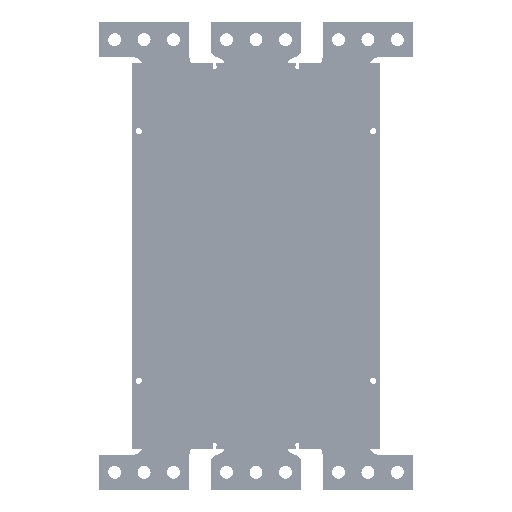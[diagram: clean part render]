
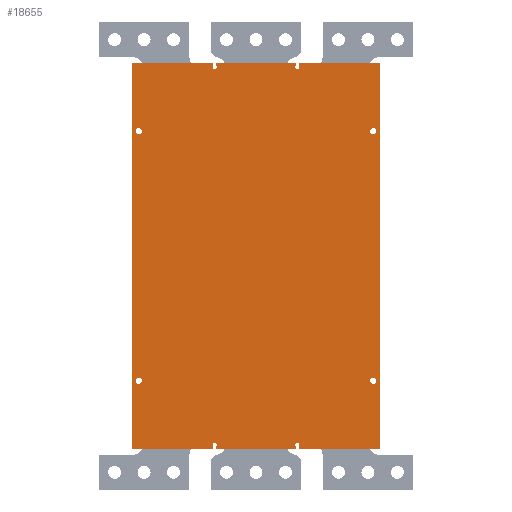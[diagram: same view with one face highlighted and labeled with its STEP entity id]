
A CAD part, front view. The second image highlights one B-rep face of the part: STEP entity #18655.
In plain terms, the highlighted planar face has unit normal (0, -1, 0).
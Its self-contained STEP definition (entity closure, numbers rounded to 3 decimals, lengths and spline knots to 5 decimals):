
#905=FACE_BOUND('',#3707,.T.);
#906=FACE_BOUND('',#3708,.T.);
#907=FACE_BOUND('',#3709,.T.);
#908=FACE_BOUND('',#3710,.T.);
#1565=PLANE('',#19923);
#2549=FACE_OUTER_BOUND('',#3706,.T.);
#3706=EDGE_LOOP('',(#16265,#16266,#16267,#16268,#16269,#16270,#16271,#16272,
#16273,#16274,#16275,#16276,#16277,#16278,#16279,#16280,#16281,#16282,#16283,
#16284));
#3707=EDGE_LOOP('',(#16285));
#3708=EDGE_LOOP('',(#16286));
#3709=EDGE_LOOP('',(#16287));
#3710=EDGE_LOOP('',(#16288));
#4151=CIRCLE('',#19539,0.00265);
#4154=CIRCLE('',#19544,0.00265);
#4157=CIRCLE('',#19549,0.00265);
#4159=CIRCLE('',#19554,0.00175);
#4161=CIRCLE('',#19559,0.00175);
#4263=CIRCLE('',#19909,0.00175);
#4265=CIRCLE('',#19921,0.00175);
#4266=CIRCLE('',#19924,0.00265);
#5065=LINE('',#38653,#6822);
#5068=LINE('',#38663,#6825);
#5071=LINE('',#38670,#6828);
#5077=LINE('',#38686,#6834);
#5230=LINE('',#51042,#6987);
#5244=LINE('',#51080,#7001);
#5251=LINE('',#51093,#7008);
#5555=LINE('',#91171,#7312);
#5557=LINE('',#91175,#7314);
#5560=LINE('',#91183,#7317);
#5562=LINE('',#91187,#7319);
#5588=LINE('',#91240,#7345);
#5589=LINE('',#91243,#7346);
#5590=LINE('',#91244,#7347);
#5591=LINE('',#91245,#7348);
#5592=LINE('',#91246,#7349);
#6822=VECTOR('',#22194,0.00168);
#6825=VECTOR('',#22205,0.00168);
#6828=VECTOR('',#22210,0.00168);
#6834=VECTOR('',#22224,0.00168);
#6987=VECTOR('',#22583,0.06885);
#7001=VECTOR('',#22615,0.00168);
#7008=VECTOR('',#22624,0.06885);
#7312=VECTOR('',#23392,0.06885);
#7314=VECTOR('',#23396,0.00168);
#7317=VECTOR('',#23405,0.00168);
#7319=VECTOR('',#23409,0.0677);
#7345=VECTOR('',#23457,0.00168);
#7346=VECTOR('',#23460,0.327);
#7347=VECTOR('',#23461,0.06885);
#7348=VECTOR('',#23462,0.0677);
#7349=VECTOR('',#23463,0.327);
#8542=VERTEX_POINT('',#38625);
#8545=VERTEX_POINT('',#38633);
#8548=VERTEX_POINT('',#38641);
#8552=VERTEX_POINT('',#38650);
#8553=VERTEX_POINT('',#38652);
#8555=VERTEX_POINT('',#38657);
#8556=VERTEX_POINT('',#38662);
#8558=VERTEX_POINT('',#38668);
#8559=VERTEX_POINT('',#38669);
#8562=VERTEX_POINT('',#38677);
#8565=VERTEX_POINT('',#38685);
#8751=VERTEX_POINT('',#51040);
#8765=VERTEX_POINT('',#51078);
#8766=VERTEX_POINT('',#51079);
#8771=VERTEX_POINT('',#51092);
#9208=VERTEX_POINT('',#91168);
#9209=VERTEX_POINT('',#91170);
#9210=VERTEX_POINT('',#91174);
#9211=VERTEX_POINT('',#91178);
#9212=VERTEX_POINT('',#91182);
#9213=VERTEX_POINT('',#91186);
#9229=VERTEX_POINT('',#91236);
#9230=VERTEX_POINT('',#91242);
#9231=VERTEX_POINT('',#91247);
#10684=EDGE_CURVE('',#8542,#8542,#4151,.T.);
#10687=EDGE_CURVE('',#8545,#8545,#4154,.T.);
#10690=EDGE_CURVE('',#8548,#8548,#4157,.T.);
#10694=EDGE_CURVE('',#8553,#8552,#5065,.T.);
#10697=EDGE_CURVE('',#8552,#8555,#4159,.T.);
#10699=EDGE_CURVE('',#8556,#8555,#5068,.T.);
#10702=EDGE_CURVE('',#8558,#8559,#5071,.T.);
#10706=EDGE_CURVE('',#8562,#8559,#4161,.T.);
#10710=EDGE_CURVE('',#8565,#8562,#5077,.T.);
#10984=EDGE_CURVE('',#8751,#8558,#5230,.T.);
#11000=EDGE_CURVE('',#8765,#8766,#5244,.T.);
#11007=EDGE_CURVE('',#8771,#8765,#5251,.T.);
#11650=EDGE_CURVE('',#9209,#9208,#5555,.T.);
#11652=EDGE_CURVE('',#9209,#9210,#5557,.T.);
#11654=EDGE_CURVE('',#9210,#9211,#4263,.T.);
#11656=EDGE_CURVE('',#9212,#9211,#5560,.T.);
#11658=EDGE_CURVE('',#9213,#9212,#5562,.T.);
#11684=EDGE_CURVE('',#9229,#8766,#4265,.T.);
#11686=EDGE_CURVE('',#9213,#9229,#5588,.T.);
#11687=EDGE_CURVE('',#9208,#9230,#5589,.T.);
#11688=EDGE_CURVE('',#8553,#9230,#5590,.T.);
#11689=EDGE_CURVE('',#8565,#8556,#5591,.T.);
#11690=EDGE_CURVE('',#8771,#8751,#5592,.T.);
#11691=EDGE_CURVE('',#9231,#9231,#4266,.T.);
#16265=ORIENTED_EDGE('',*,*,#11658,.T.);
#16266=ORIENTED_EDGE('',*,*,#11656,.T.);
#16267=ORIENTED_EDGE('',*,*,#11654,.F.);
#16268=ORIENTED_EDGE('',*,*,#11652,.F.);
#16269=ORIENTED_EDGE('',*,*,#11650,.T.);
#16270=ORIENTED_EDGE('',*,*,#11687,.T.);
#16271=ORIENTED_EDGE('',*,*,#11688,.F.);
#16272=ORIENTED_EDGE('',*,*,#10694,.T.);
#16273=ORIENTED_EDGE('',*,*,#10697,.T.);
#16274=ORIENTED_EDGE('',*,*,#10699,.F.);
#16275=ORIENTED_EDGE('',*,*,#11689,.F.);
#16276=ORIENTED_EDGE('',*,*,#10710,.T.);
#16277=ORIENTED_EDGE('',*,*,#10706,.T.);
#16278=ORIENTED_EDGE('',*,*,#10702,.F.);
#16279=ORIENTED_EDGE('',*,*,#10984,.F.);
#16280=ORIENTED_EDGE('',*,*,#11690,.F.);
#16281=ORIENTED_EDGE('',*,*,#11007,.T.);
#16282=ORIENTED_EDGE('',*,*,#11000,.T.);
#16283=ORIENTED_EDGE('',*,*,#11684,.F.);
#16284=ORIENTED_EDGE('',*,*,#11686,.F.);
#16285=ORIENTED_EDGE('',*,*,#11691,.T.);
#16286=ORIENTED_EDGE('',*,*,#10684,.T.);
#16287=ORIENTED_EDGE('',*,*,#10687,.T.);
#16288=ORIENTED_EDGE('',*,*,#10690,.T.);
#18655=ADVANCED_FACE('',(#2549,#905,#906,#907,#908),#1565,.T.);
#19539=AXIS2_PLACEMENT_3D('',#38626,#22164,#22165);
#19544=AXIS2_PLACEMENT_3D('',#38634,#22174,#22175);
#19549=AXIS2_PLACEMENT_3D('',#38642,#22184,#22185);
#19554=AXIS2_PLACEMENT_3D('',#38659,#22199,#22200);
#19559=AXIS2_PLACEMENT_3D('',#38678,#22216,#22217);
#19909=AXIS2_PLACEMENT_3D('',#91179,#23400,#23401);
#19921=AXIS2_PLACEMENT_3D('',#91237,#23452,#23453);
#19923=AXIS2_PLACEMENT_3D('',#91241,#23458,#23459);
#19924=AXIS2_PLACEMENT_3D('',#91248,#23464,#23465);
#22164=DIRECTION('center_axis',(0.,1.,0.));
#22165=DIRECTION('ref_axis',(-1.,0.,0.));
#22174=DIRECTION('center_axis',(0.,1.,0.));
#22175=DIRECTION('ref_axis',(-1.,0.,0.));
#22184=DIRECTION('center_axis',(0.,1.,0.));
#22185=DIRECTION('ref_axis',(-1.,0.,0.));
#22194=DIRECTION('',(0.,0.,-1.));
#22199=DIRECTION('center_axis',(0.,1.,0.));
#22200=DIRECTION('ref_axis',(0.657,0.,0.754));
#22205=DIRECTION('',(0.,0.,-1.));
#22210=DIRECTION('',(0.,0.,-1.));
#22216=DIRECTION('center_axis',(0.,1.,0.));
#22217=DIRECTION('ref_axis',(0.657,0.,0.754));
#22224=DIRECTION('',(0.,0.,-1.));
#22583=DIRECTION('',(1.,0.,0.));
#22615=DIRECTION('',(0.,0.,1.));
#22624=DIRECTION('',(1.,0.,0.));
#23392=DIRECTION('',(1.,0.,0.));
#23396=DIRECTION('',(0.,0.,1.));
#23400=DIRECTION('center_axis',(0.,-1.,0.));
#23401=DIRECTION('ref_axis',(0.657,0.,-0.754));
#23405=DIRECTION('',(0.,0.,1.));
#23409=DIRECTION('',(1.,0.,0.));
#23452=DIRECTION('center_axis',(0.,-1.,0.));
#23453=DIRECTION('ref_axis',(0.657,0.,-0.754));
#23457=DIRECTION('',(0.,0.,1.));
#23458=DIRECTION('center_axis',(0.,-1.,0.));
#23459=DIRECTION('ref_axis',(0.,0.,-1.));
#23460=DIRECTION('',(0.,0.,1.));
#23461=DIRECTION('',(1.,0.,0.));
#23462=DIRECTION('',(1.,0.,0.));
#23463=DIRECTION('',(0.,0.,1.));
#23464=DIRECTION('center_axis',(0.,1.,0.));
#23465=DIRECTION('ref_axis',(-1.,0.,0.));
#38625=CARTESIAN_POINT('',(0.09685,-0.1157,0.106));
#38626=CARTESIAN_POINT('Origin',(0.0995,-0.1157,0.106));
#38633=CARTESIAN_POINT('',(0.09685,-0.1157,-0.106));
#38634=CARTESIAN_POINT('Origin',(0.0995,-0.1157,-0.106));
#38641=CARTESIAN_POINT('',(-0.10215,-0.1157,-0.106));
#38642=CARTESIAN_POINT('Origin',(-0.0995,-0.1157,-0.106));
#38650=CARTESIAN_POINT('',(0.03615,-0.1157,0.16182));
#38652=CARTESIAN_POINT('',(0.03615,-0.1157,0.1635));
#38653=CARTESIAN_POINT('',(0.03615,-0.1157,0.1635));
#38657=CARTESIAN_POINT('',(0.03385,-0.1157,0.16182));
#38659=CARTESIAN_POINT('Origin',(0.035,-0.1157,0.1605));
#38662=CARTESIAN_POINT('',(0.03385,-0.1157,0.1635));
#38663=CARTESIAN_POINT('',(0.03385,-0.1157,0.1635));
#38668=CARTESIAN_POINT('',(-0.03615,-0.1157,0.1635));
#38669=CARTESIAN_POINT('',(-0.03615,-0.1157,0.16182));
#38670=CARTESIAN_POINT('',(-0.03615,-0.1157,0.1635));
#38677=CARTESIAN_POINT('',(-0.03385,-0.1157,0.16182));
#38678=CARTESIAN_POINT('Origin',(-0.035,-0.1157,0.1605));
#38685=CARTESIAN_POINT('',(-0.03385,-0.1157,0.1635));
#38686=CARTESIAN_POINT('',(-0.03385,-0.1157,0.1635));
#51040=CARTESIAN_POINT('',(-0.105,-0.1157,0.1635));
#51042=CARTESIAN_POINT('',(-0.105,-0.1157,0.1635));
#51078=CARTESIAN_POINT('',(-0.03615,-0.1157,-0.1635));
#51079=CARTESIAN_POINT('',(-0.03615,-0.1157,-0.16182));
#51080=CARTESIAN_POINT('',(-0.03615,-0.1157,-0.1635));
#51092=CARTESIAN_POINT('',(-0.105,-0.1157,-0.1635));
#51093=CARTESIAN_POINT('',(-0.105,-0.1157,-0.1635));
#91168=CARTESIAN_POINT('',(0.105,-0.1157,-0.1635));
#91170=CARTESIAN_POINT('',(0.03615,-0.1157,-0.1635));
#91171=CARTESIAN_POINT('',(0.03615,-0.1157,-0.1635));
#91174=CARTESIAN_POINT('',(0.03615,-0.1157,-0.16182));
#91175=CARTESIAN_POINT('',(0.03615,-0.1157,-0.1635));
#91178=CARTESIAN_POINT('',(0.03385,-0.1157,-0.16182));
#91179=CARTESIAN_POINT('Origin',(0.035,-0.1157,-0.1605));
#91182=CARTESIAN_POINT('',(0.03385,-0.1157,-0.1635));
#91183=CARTESIAN_POINT('',(0.03385,-0.1157,-0.1635));
#91186=CARTESIAN_POINT('',(-0.03385,-0.1157,-0.1635));
#91187=CARTESIAN_POINT('',(-0.03385,-0.1157,-0.1635));
#91236=CARTESIAN_POINT('',(-0.03385,-0.1157,-0.16182));
#91237=CARTESIAN_POINT('Origin',(-0.035,-0.1157,-0.1605));
#91240=CARTESIAN_POINT('',(-0.03385,-0.1157,-0.1635));
#91241=CARTESIAN_POINT('Origin',(-0.105,-0.1157,-0.1635));
#91242=CARTESIAN_POINT('',(0.105,-0.1157,0.1635));
#91243=CARTESIAN_POINT('',(0.105,-0.1157,-0.1635));
#91244=CARTESIAN_POINT('',(0.03615,-0.1157,0.1635));
#91245=CARTESIAN_POINT('',(-0.03385,-0.1157,0.1635));
#91246=CARTESIAN_POINT('',(-0.105,-0.1157,-0.1635));
#91247=CARTESIAN_POINT('',(-0.10215,-0.1157,0.106));
#91248=CARTESIAN_POINT('Origin',(-0.0995,-0.1157,0.106));
